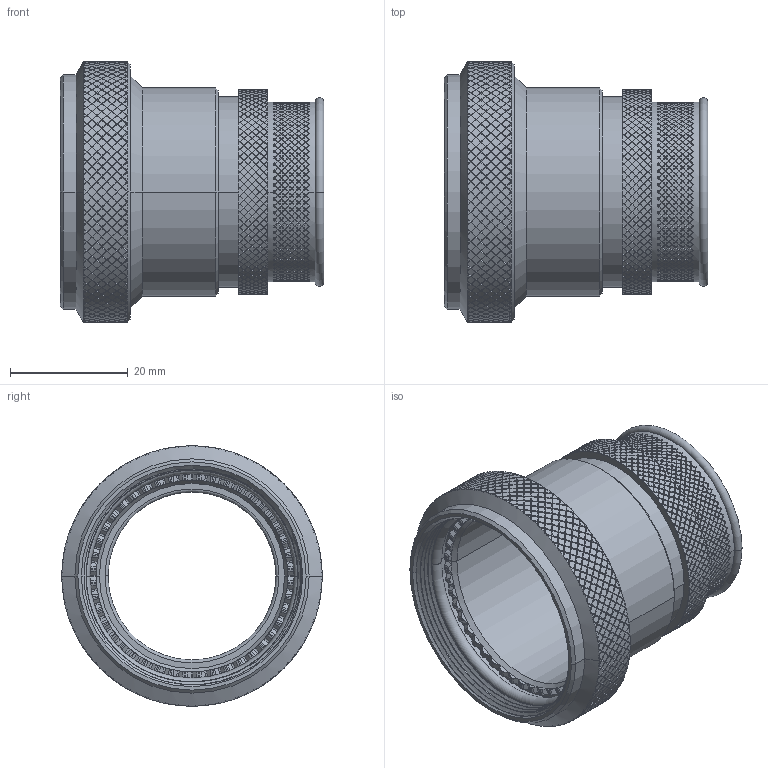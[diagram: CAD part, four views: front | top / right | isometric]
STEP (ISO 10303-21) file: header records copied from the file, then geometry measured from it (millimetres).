
FILE_DESCRIPTION((''),'2;1');
FILE_NAME('BLVGSRA010N_ASM','2021-02-18T15:09:51',('Brahmendra'),(''),'CREO PARAMETRIC BY PTC INC, 2018400','CREO PARAMETRIC BY PTC INC, 2018400','');
FILE_SCHEMA(('CONFIG_CONTROL_DESIGN'));
Length unit declared in the file: millimetre
Products named in the file (5): B17672__; B17671; B22930; B17914; BLVGSRA010N_ASM
Assembly tree (4 placements, depth 2):
  BLVGSRA010N_ASM
    B17672__
    B17671
    B22930
    B17914
Bounding box: 44.79 x 44.2 x 44.2 mm (x, y, z)
Volume: 12527.5 mm3; surface area: 16505.3 mm2
Topology: 4 solids, 4 shells, 12081 faces, 25632 edges, 13568 vertices
Faces by surface type: bspline 8966, cylinder 2456, plane 631, cone 18, torus 10
Entity records: 580219 total; most frequent: CARTESIAN_POINT 401568, ORIENTED_EDGE 51264, EDGE_CURVE 25632, B_SPLINE_CURVE_WITH_KNOTS 23630, VERTEX_POINT 13568, EDGE_LOOP 12096, FACE_OUTER_BOUND 12081, ADVANCED_FACE 12081
